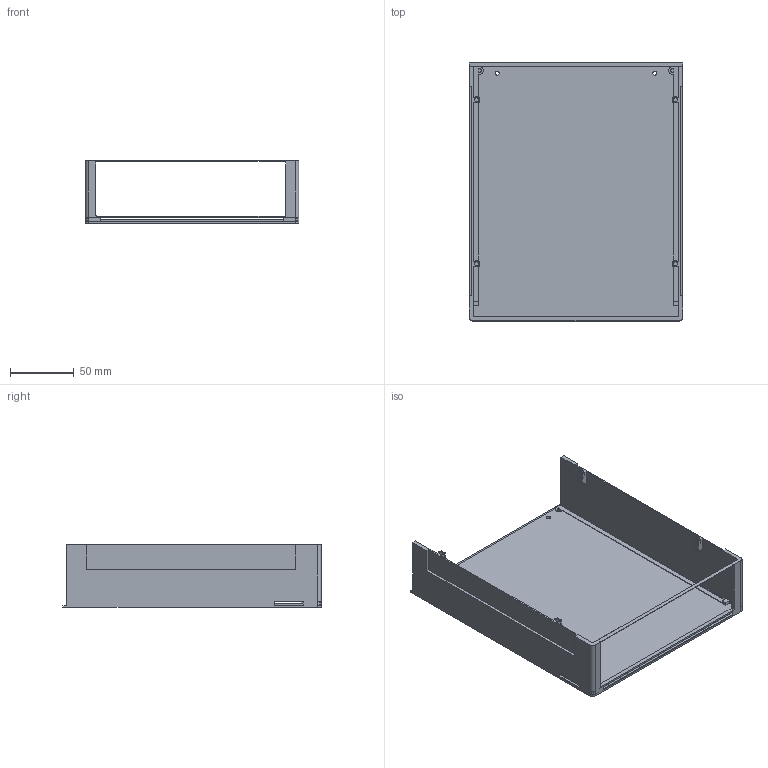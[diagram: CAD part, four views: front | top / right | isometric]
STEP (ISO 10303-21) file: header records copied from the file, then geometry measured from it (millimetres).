
FILE_DESCRIPTION(('Open CASCADE Model'),'2;1');
FILE_NAME('Open CASCADE Shape Model','2026-11-07T14:43:39',('Author'),( 'Open CASCADE'),'Open CASCADE STEP processor 7.9','Open CASCADE 7.9' ,'Unknown');
FILE_SCHEMA(('AUTOMOTIVE_DESIGN { 1 0 10303 214 1 1 1 1 }'));
Length unit declared in the file: millimetre
Products named in the file (1): Open CASCADE STEP translator 7.9 20
Bounding box: 168 x 203 x 49.2 mm (x, y, z)
Volume: 142494.6 mm3; surface area: 113335.4 mm2
Topology: 1 solids, 1 shells, 137 faces, 392 edges, 260 vertices
Faces by surface type: plane 105, cylinder 32
Full cylindrical faces by diameter (mm): 3.2 x4, 3.3 x2
Entity records: 9350 total; most frequent: CARTESIAN_POINT 1989, DIRECTION 1206, ORIENTED_EDGE 784, PCURVE 784, DEFINITIONAL_REPRESENTATION 784, LINE 759, VECTOR 759, EDGE_CURVE 392
